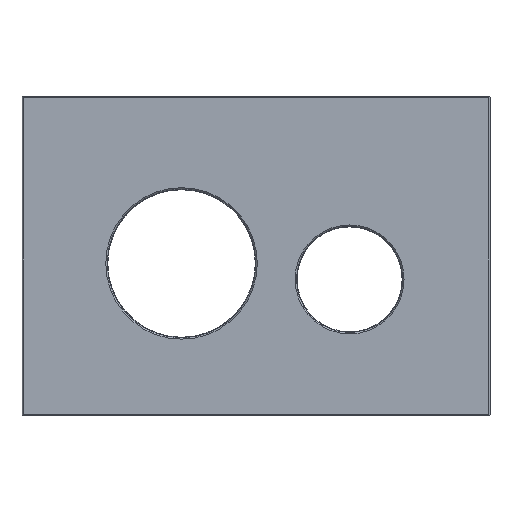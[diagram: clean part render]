
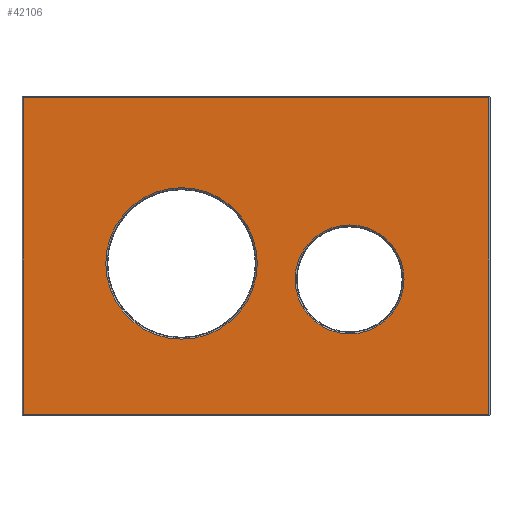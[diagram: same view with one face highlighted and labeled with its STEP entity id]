
A CAD part, top view. The second image highlights one B-rep face of the part: STEP entity #42106.
In plain terms, the highlighted planar face has unit normal (0, 0, 1).
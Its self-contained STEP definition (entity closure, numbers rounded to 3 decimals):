
#41389=CARTESIAN_POINT('',(-35.,-3.5,5.));
#41390=DIRECTION('',(0.,0.,-1.));
#41391=DIRECTION('',(1.,0.,0.));
#41392=AXIS2_PLACEMENT_3D('',#41389,#41390,#41391);
#41397=CARTESIAN_POINT('',(-35.,-3.5,5.));
#41398=DIRECTION('',(0.,0.,-1.));
#41399=DIRECTION('',(-1.,0.,0.));
#41400=AXIS2_PLACEMENT_3D('',#41397,#41398,#41399);
#41405=CARTESIAN_POINT('',(44.,-11.,5.));
#41406=DIRECTION('',(0.,0.,-1.));
#41407=DIRECTION('',(-1.,0.,0.));
#41408=AXIS2_PLACEMENT_3D('',#41405,#41406,#41407);
#41413=CARTESIAN_POINT('',(44.,-11.,5.));
#41414=DIRECTION('',(0.,0.,-1.));
#41415=DIRECTION('',(1.,0.,0.));
#41416=AXIS2_PLACEMENT_3D('',#41413,#41414,#41415);
#41421=DIRECTION('',(-1.,0.,0.));
#41422=VECTOR('',#41421,219.);
#41423=CARTESIAN_POINT('',(109.5,74.5,5.));
#41424=LINE('2631',#41423,#41422);
#41428=DIRECTION('',(0.,1.,0.));
#41429=VECTOR('',#41428,149.);
#41430=CARTESIAN_POINT('',(109.5,-74.5,5.));
#41431=LINE('2645',#41430,#41429);
#41435=DIRECTION('',(1.,0.,0.));
#41436=VECTOR('',#41435,219.);
#41437=CARTESIAN_POINT('',(-109.5,-74.5,5.));
#41438=LINE('2641',#41437,#41436);
#41442=DIRECTION('',(0.,-1.,0.));
#41443=VECTOR('',#41442,149.);
#41444=CARTESIAN_POINT('',(-109.5,74.5,5.));
#41445=LINE('2637',#41444,#41443);
#41870=CARTESIAN_POINT('',(0.6,-3.5,5.));
#41871=CARTESIAN_POINT('',(-70.6,-3.5,5.));
#41872=VERTEX_POINT('',#41870);
#41873=VERTEX_POINT('',#41871);
#41886=CARTESIAN_POINT('',(18.4,-11.,5.));
#41887=CARTESIAN_POINT('',(69.6,-11.,5.));
#41888=VERTEX_POINT('',#41886);
#41889=VERTEX_POINT('',#41887);
#41906=CARTESIAN_POINT('',(109.5,74.5,5.));
#41907=CARTESIAN_POINT('',(-109.5,74.5,5.));
#41908=VERTEX_POINT('',#41906);
#41909=VERTEX_POINT('',#41907);
#41920=CARTESIAN_POINT('',(-109.5,-74.5,5.));
#41921=VERTEX_POINT('',#41920);
#41928=CARTESIAN_POINT('',(109.5,-74.5,5.));
#41929=VERTEX_POINT('',#41928);
#42080=CARTESIAN_POINT('',(0.,0.,5.));
#42081=DIRECTION('',(0.,0.,1.));
#42082=DIRECTION('',(1.,0.,0.));
#42083=AXIS2_PLACEMENT_3D('',#42080,#42081,#42082);
#42084=PLANE('74',#42083);
#42086=ORIENTED_EDGE('2631',*,*,#42085,.F.);
#42088=ORIENTED_EDGE('2645',*,*,#42087,.F.);
#42090=ORIENTED_EDGE('2641',*,*,#42089,.F.);
#42092=ORIENTED_EDGE('2637',*,*,#42091,.F.);
#42093=EDGE_LOOP('74',(#42086,#42088,#42090,#42092));
#42094=FACE_OUTER_BOUND('74',#42093,.F.);
#42096=ORIENTED_EDGE('2164',*,*,#42095,.F.);
#42097=ORIENTED_EDGE('2166',*,*,#42070,.F.);
#42098=EDGE_LOOP('74',(#42096,#42097));
#42099=FACE_BOUND('74',#42098,.F.);
#42101=ORIENTED_EDGE('2172',*,*,#42100,.F.);
#42103=ORIENTED_EDGE('2174',*,*,#42102,.F.);
#42104=EDGE_LOOP('74',(#42101,#42103));
#42105=FACE_BOUND('74',#42104,.F.);
#42106=ADVANCED_FACE('74',(#42094,#42099,#42105),#42084,.T.);
#41393=CIRCLE('2164',#41392,35.6);
#41401=CIRCLE('2166',#41400,35.6);
#41409=CIRCLE('2172',#41408,25.6);
#41417=CIRCLE('2174',#41416,25.6);
#42070=EDGE_CURVE('2166',#41873,#41872,#41401,.T.);
#42085=EDGE_CURVE('2631',#41908,#41909,#41424,.T.);
#42087=EDGE_CURVE('2645',#41929,#41908,#41431,.T.);
#42089=EDGE_CURVE('2641',#41921,#41929,#41438,.T.);
#42091=EDGE_CURVE('2637',#41909,#41921,#41445,.T.);
#42095=EDGE_CURVE('2164',#41872,#41873,#41393,.T.);
#42100=EDGE_CURVE('2172',#41888,#41889,#41409,.T.);
#42102=EDGE_CURVE('2174',#41889,#41888,#41417,.T.);
